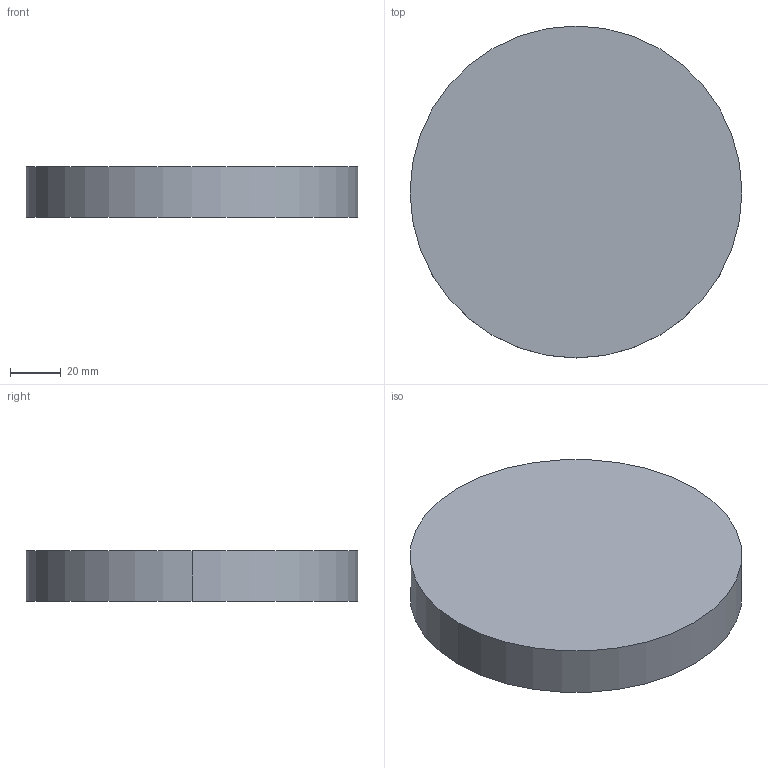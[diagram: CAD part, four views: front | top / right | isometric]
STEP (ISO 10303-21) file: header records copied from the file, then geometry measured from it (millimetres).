
FILE_SCHEMA(('CONFIG_CONTROL_DESIGN'));
Length unit declared in the file: millimetre
Products named in the file (1): Produkt1
Assembly tree (1 placements, depth 2):
  Produkt1
    #56
Bounding box: 130.62 x 130.62 x 20 mm (x, y, z)
Volume: 268006.1 mm3; surface area: 35007.8 mm2
Topology: 1 solids, 1 shells, 4 faces, 6 edges, 4 vertices
Faces by surface type: cylinder 2, plane 2
Entity records: 149 total; most frequent: DIRECTION 16, CARTESIAN_POINT 15, ORIENTED_EDGE 12, AXIS2_PLACEMENT_3D 9, EDGE_CURVE 6, ADVANCED_FACE 4, CC_DESIGN_PERSON_AND_ORGANIZATION_ASSIGNMENT 4, PERSON_AND_ORGANIZATION_ROLE 4
